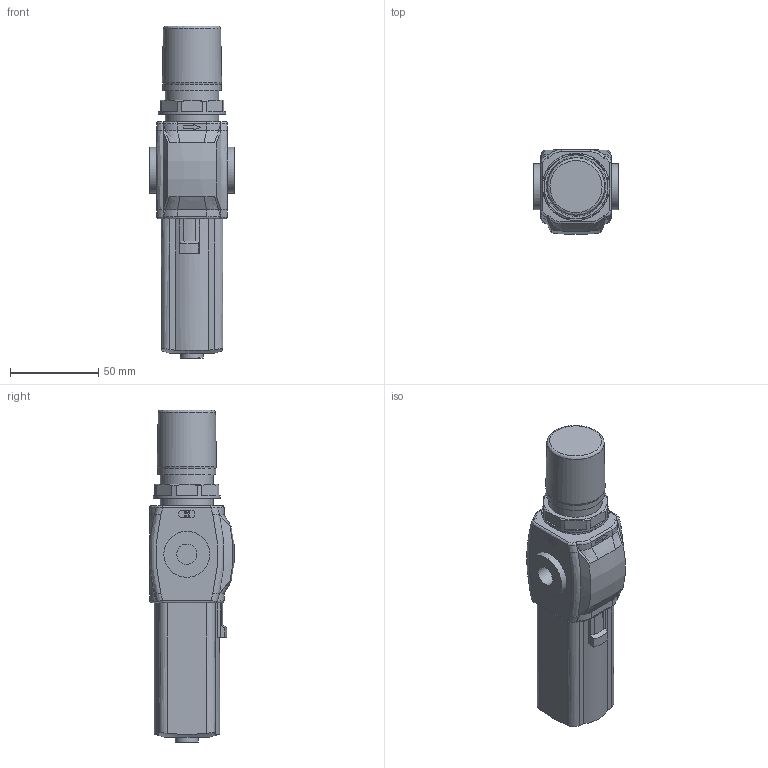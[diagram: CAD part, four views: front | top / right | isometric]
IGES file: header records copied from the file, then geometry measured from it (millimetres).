
Global section: file name: #171BEM##S; native system: Autodesk Inventor 2014; preprocessor: unknown; author: M. Valota; organization: Pneumax S.p.A.; date: 20140522.102727; units: millimetre
Bounding box: 48 x 47.82 x 187.6 mm (x, y, z)
Volume: 230975.8 mm3; surface area: 34971.9 mm2
Topology: 2 solids, 3 shells, 342 faces, 839 edges, 539 vertices
Faces by surface type: bspline 342
